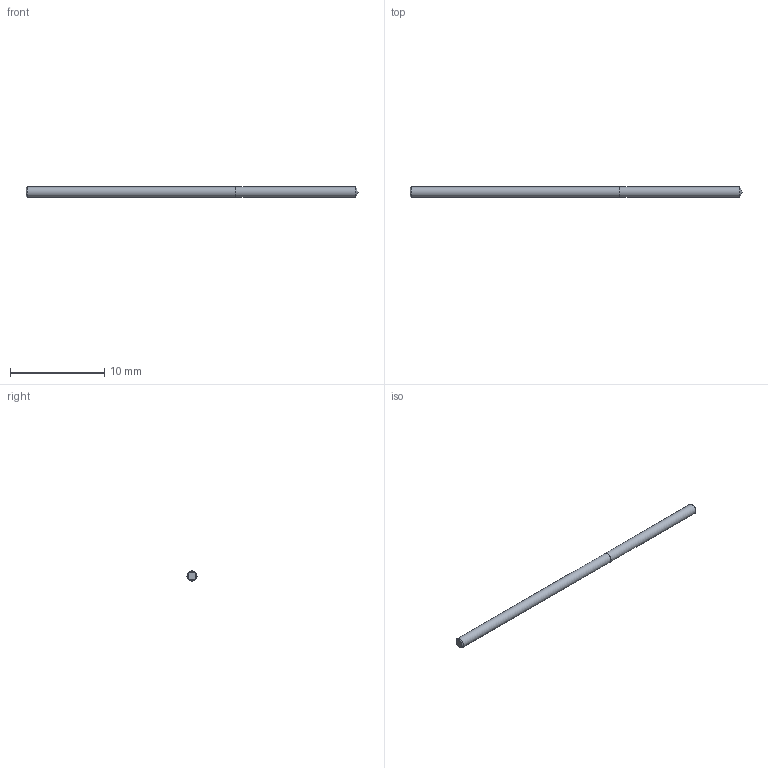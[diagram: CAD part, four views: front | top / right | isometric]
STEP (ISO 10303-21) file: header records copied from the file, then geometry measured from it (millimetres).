
FILE_DESCRIPTION (( 'STEP AP214' ), '1' );
FILE_NAME ('03-2400.STEP', '2022-06-03T07:15:51', ( 'USER' ), ( '' ), 'SwSTEP 2.0', 'SolidWorks 2018', '' );
FILE_SCHEMA (( 'AUTOMOTIVE_DESIGN' ));
Length unit declared in the file: inch
Products named in the file (1): 03-2400
Bounding box: 35.15 x 1.07 x 1.07 mm (x, y, z)
Volume: 31.3 mm3; surface area: 120.5 mm2
Topology: 2 solids, 2 shells, 7 faces, 11 edges, 7 vertices
Faces by surface type: plane 3, cylinder 2, cone 2
Full cylindrical faces by diameter (mm): 1.067 x2
Entity records: 214 total; most frequent: DIRECTION 26, CARTESIAN_POINT 18, AXIS2_PLACEMENT_3D 13, EDGE_LOOP 10, ORIENTED_EDGE 10, FACE_OUTER_BOUND 9, ADVANCED_FACE 7, UNCERTAINTY_MEASURE_WITH_UNIT 7
